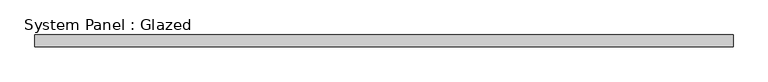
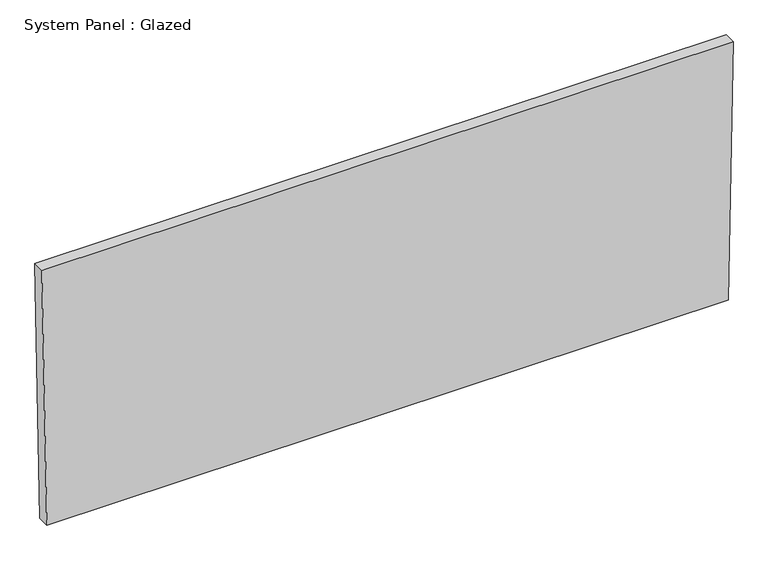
"""IFC4 building model written with IfcOpenShell, lengths in millimetres: plate geometry, System Panel : Glazed."""

import ifcopenshell
import ifcopenshell.guid

model = None  # the IFC model being written
_history = None  # IfcOwnerHistory: only IFC2X3 demands one
_inside = {}  # id of a spatial element -> (the spatial element, [elements in it])
_under = {}  # id of a project, library or spatial element -> (it, [spatial elements below it])
_declared = {}  # id of a project -> (the project, [libraries it declares])
_typed = {}  # id of a type object -> (the type object, [elements of that type])
_made_of = {}  # id of a material, layer set ... -> (it, [elements and type objects made of it])


def new_model(schema):
    """Start an empty IFC model of exactly this schema.

    Asked for "IFC4X3", IfcOpenShell would pick the latest addendum, in which some entities
    have other attributes; the version numbers below select the first issue.
    IFC2X3 requires an IfcOwnerHistory on every rooted entity: one is made here for all.
    """
    global model, _history
    if schema == "IFC4X3":
        model = ifcopenshell.file(schema_version=(4, 3, 0, 0))
    else:
        model = ifcopenshell.file(schema=schema)
    _inside.clear()
    _under.clear()
    _declared.clear()
    _typed.clear()
    _made_of.clear()
    _history = None
    if model.schema == "IFC2X3":
        org = make("IfcOrganization", Name="unknown")
        user = make(
            "IfcPersonAndOrganization",
            ThePerson=make("IfcPerson", FamilyName="unknown"),
            TheOrganization=org,
        )
        app = make(
            "IfcApplication",
            ApplicationDeveloper=org,
            Version="unknown",
            ApplicationFullName="unknown",
            ApplicationIdentifier="unknown",
        )
        _history = make(
            "IfcOwnerHistory",
            OwningUser=user,
            OwningApplication=app,
            ChangeAction="ADDED",
            CreationDate=0,
        )
    return model


def make(cls, **values):
    """One entity of the class cls with the attributes given. An attribute that is None is left unset."""
    return model.create_entity(
        cls, **{name: value for name, value in values.items() if value is not None}
    )


def rooted(cls, **values):
    """An entity with a GlobalId (a new one), such as an element, a storey or a relation."""
    return make(cls, GlobalId=ifcopenshell.guid.new(), OwnerHistory=_history, **values)


def si_unit(unit_type, name, prefix=None):
    """IfcSIUnit, for example si_unit("LENGTHUNIT", "METRE", prefix="MILLI")."""
    return make("IfcSIUnit", UnitType=unit_type, Prefix=prefix, Name=name)


def assignment(units):
    """IfcUnitAssignment: the units of a project."""
    return None if units is None else make("IfcUnitAssignment", Units=units)


def point(xyz):
    """IfcCartesianPoint."""
    return None if xyz is None else make("IfcCartesianPoint", Coordinates=xyz)


def direction(xyz):
    """IfcDirection."""
    return None if xyz is None else make("IfcDirection", DirectionRatios=xyz)


def frame(location, z_axis=None, x_axis=None):
    """IfcAxis2Placement3D, a coordinate frame: its origin and axes. An axis left out is left unset."""
    return make(
        "IfcAxis2Placement3D",
        Location=point(location),
        Axis=direction(z_axis),
        RefDirection=direction(x_axis),
    )


def origin():
    """The frame at (0, 0, 0) with its axes left unset."""
    return frame((0.0, 0.0, 0.0))


def place(relative_to, where):
    """IfcLocalPlacement: puts the frame where relative to a parent placement (None: the world)."""
    return make(
        "IfcLocalPlacement", PlacementRelTo=relative_to, RelativePlacement=where
    )


def context(
    kind, dimensions, precision=None, world=None, true_north=None, identifier=None
):
    """IfcGeometricRepresentationContext, for example the 3D "Model" context."""
    return make(
        "IfcGeometricRepresentationContext",
        ContextIdentifier=identifier,
        ContextType=kind,
        CoordinateSpaceDimension=dimensions,
        Precision=precision,
        WorldCoordinateSystem=world,
        TrueNorth=true_north,
    )


def project(units=None, contexts=None):
    """IfcProject with its units and contexts."""
    return rooted(
        "IfcProject",
        Name="project",
        RepresentationContexts=contexts,
        UnitsInContext=assignment(units),
    )


def spatial(cls, under=None, at=None, **own):
    """A site, building, storey or space (cls), placed at a placement, below another one or the project."""
    s = rooted(cls, ObjectPlacement=at, **own)
    if under is not None:
        _under.setdefault(under.id(), (under, []))[1].append(s)
    return s


def polyline(points):
    """IfcPolyline through the points."""
    return make("IfcPolyline", Points=[point(p) for p in points])


def outline(outer, holes=None, kind="AREA"):
    """IfcArbitraryClosedProfileDef: a profile drawn as a closed curve; with holes, ...WithVoids."""
    if holes is None:
        return make("IfcArbitraryClosedProfileDef", ProfileType=kind, OuterCurve=outer)
    return make(
        "IfcArbitraryProfileDefWithVoids",
        ProfileType=kind,
        OuterCurve=outer,
        InnerCurves=holes,
    )


def extrude(swept, where, along, depth):
    """IfcExtrudedAreaSolid: the profile swept, set in the frame where, extruded along a direction by depth."""
    return make(
        "IfcExtrudedAreaSolid",
        SweptArea=swept,
        Position=where,
        ExtrudedDirection=direction(along),
        Depth=depth,
    )


def shape(context_of_items, identifier, shape_type, items):
    """IfcShapeRepresentation: the items that make up one representation, for example the "Body"."""
    return make(
        "IfcShapeRepresentation",
        ContextOfItems=context_of_items,
        RepresentationIdentifier=identifier,
        RepresentationType=shape_type,
        Items=items,
    )


def source(mapping_origin, context_of_items, identifier, shape_type, items):
    """IfcRepresentationMap: a shape defined once, which mapped items show again and again."""
    return make(
        "IfcRepresentationMap",
        MappingOrigin=mapping_origin,
        MappedRepresentation=shape(context_of_items, identifier, shape_type, items),
    )


def transform(
    local_origin,
    x_axis=None,
    y_axis=None,
    z_axis=None,
    scale=None,
    scale2=None,
    scale3=None,
    uniform=True,
):
    """IfcCartesianTransformationOperator3D, or its non-uniform kind. x_axis, y_axis, z_axis: its Axis1, 2, 3."""
    if uniform:
        return make(
            "IfcCartesianTransformationOperator3D",
            Axis1=direction(x_axis),
            Axis2=direction(y_axis),
            LocalOrigin=point(local_origin),
            Scale=scale,
            Axis3=direction(z_axis),
        )
    return make(
        "IfcCartesianTransformationOperator3DnonUniform",
        Axis1=direction(x_axis),
        Axis2=direction(y_axis),
        LocalOrigin=point(local_origin),
        Scale=scale,
        Axis3=direction(z_axis),
        Scale2=scale2,
        Scale3=scale3,
    )


def mapped(mapping_source, mapping_target):
    """IfcMappedItem: shows the shape of a source again, moved by a transform."""
    return make(
        "IfcMappedItem", MappingSource=mapping_source, MappingTarget=mapping_target
    )


def made_of(thing, what):
    """Note that an element or type object is made of a material, layer set ...; save() writes the relation."""
    if what is not None:
        _made_of.setdefault(what.id(), (what, []))[1].append(thing)
    return thing


def element(
    cls,
    number,
    at=None,
    inside=None,
    cuts=None,
    type_object=None,
    material=None,
    context=None,
    identifier="Body",
    shape_type=None,
    held_by="IfcProductDefinitionShape",
    body=None,
    shapes=None,
    **own,
):
    """One element of the class cls, such as IfcWall. Its Tag is "e" and its number.

    at: its placement. inside: the storey or other place that contains it. cuts: it is an
    opening in that element (IfcRelVoidsElement). A single representation is given by context,
    identifier, shape_type and body (its items); several are given by shapes. held_by: the class
    of the entity that holds the representations. save() writes the other relations.
    """
    e = rooted(cls, Tag="e%d" % number, ObjectPlacement=at, **own)
    if body is not None:
        shapes = [shape(context, identifier, shape_type, body)]
    if shapes is not None:
        e.Representation = make(held_by, Representations=shapes)
    if inside is not None:
        _inside.setdefault(inside.id(), (inside, []))[1].append(e)
    if cuts is not None:
        rooted(
            "IfcRelVoidsElement", RelatingBuildingElement=cuts, RelatedOpeningElement=e
        )
    if type_object is not None:
        _typed.setdefault(type_object.id(), (type_object, []))[1].append(e)
    return made_of(e, material)


def aggregate(whole, parts):
    """IfcRelAggregates: a whole, such as a stair, and the parts it consists of."""
    return rooted("IfcRelAggregates", RelatingObject=whole, RelatedObjects=parts)


def save(model, path):
    """Write the relations noted so far, then the file.

    IfcRelAggregates (storeys below a building ...), IfcRelContainedInSpatialStructure (elements
    in a storey), IfcRelDefinesByType, IfcRelAssociatesMaterial and IfcRelDeclares: one each for
    every whole, place, type object, material and project.
    """
    for whole, parts in _under.values():
        aggregate(whole, parts)
    for where, things in _inside.values():
        rooted(
            "IfcRelContainedInSpatialStructure",
            RelatedElements=things,
            RelatingStructure=where,
        )
    for kind, things in _typed.values():
        rooted("IfcRelDefinesByType", RelatedObjects=things, RelatingType=kind)
    for what, things in _made_of.values():
        rooted("IfcRelAssociatesMaterial", RelatedObjects=things, RelatingMaterial=what)
    for by, libraries in _declared.values():
        rooted("IfcRelDeclares", RelatingContext=by, RelatedDefinitions=libraries)
    model.write(path)


def system_panel_glazed_73e28ea5(model_context):
    return source(origin(), model_context, "Body", "SweptSolid", [
        extrude(outline(polyline([(0.0, -733.219562), (0.0, 733.219562), (584.0951149, 744.0560627), (584.0951149, -744.0560627), (0.0, -733.219562)])), frame((0.0, -44.45, 0.0), z_axis=(0.0, 1.0, 0.0), x_axis=(0.0, 0.0, 1.0)), (0.0, 0.0, 1.0), 25.4),
    ])


if __name__ == "__main__":
    model = new_model("IFC4")
    model_context = context("Model", 3, world=origin())
    ifc_project = project(units=[si_unit("LENGTHUNIT", "METRE", prefix="MILLI")], contexts=[model_context])
    site = spatial("IfcSite", under=ifc_project)
    building = spatial("IfcBuilding", under=site)
    placement = place(None, origin())
    system_panel_glazed_shape = system_panel_glazed_73e28ea5(model_context)
    element("IfcPlate", 1, ObjectType="System Panel : Glazed", at=placement, inside=building, context=model_context, shape_type="MappedRepresentation", body=[
        mapped(system_panel_glazed_shape, transform((0.0, 0.0, 0.0), x_axis=(1.0, 0.0, 0.0), y_axis=(0.0, 1.0, 0.0), z_axis=(0.0, 0.0, 1.0))),
    ])
    save(model, "model.ifc")
